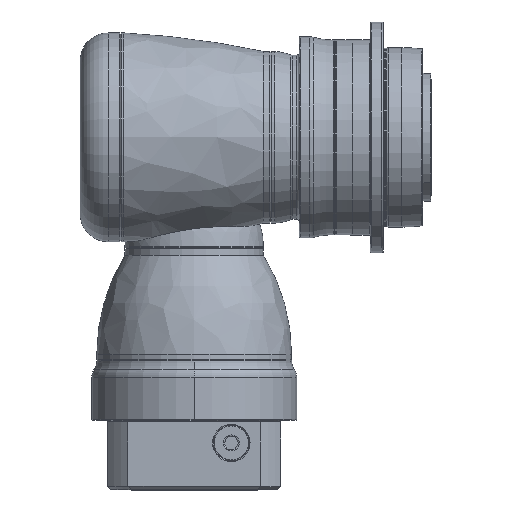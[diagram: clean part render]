
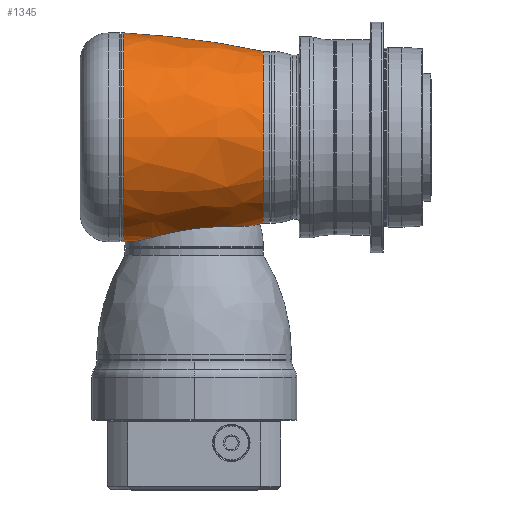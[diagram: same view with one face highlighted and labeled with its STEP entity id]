
A CAD part, top view. The second image highlights one B-rep face of the part: STEP entity #1345.
In plain terms, the highlighted free-form (B-spline) face has degree [3, 3] with [7, 4] control points.
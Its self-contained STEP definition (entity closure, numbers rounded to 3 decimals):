
#136=CARTESIAN_POINT('',(-92.521,617.494,
0.));
#137=DIRECTION('',(0.,0.,-1.));
#138=DIRECTION('',(0.209,-0.978,0.));
#139=AXIS2_PLACEMENT_3D('',#136,#137,#138);
#146=CARTESIAN_POINT('',(-92.521,-617.494,
0.));
#147=DIRECTION('',(0.,0.,1.));
#148=DIRECTION('',(0.209,0.978,0.));
#149=AXIS2_PLACEMENT_3D('',#146,#147,#148);
#151=CARTESIAN_POINT('',(-92.521,617.494,
0.));
#152=DIRECTION('',(0.,0.,-1.));
#153=DIRECTION('',(0.064,-0.998,0.));
#154=AXIS2_PLACEMENT_3D('',#151,#152,#153);
#156=CARTESIAN_POINT('',(54.,0.,0.));
#157=DIRECTION('',(1.,0.,0.));
#158=DIRECTION('',(0.,1.,0.));
#159=AXIS2_PLACEMENT_3D('',#156,#157,#158);
#161=CARTESIAN_POINT('',(-47.703,-81.07,0.));
#162=CARTESIAN_POINT('',(-46.711,-81.006,1.883));
#163=CARTESIAN_POINT('',(-44.473,-80.728,5.573));
#164=CARTESIAN_POINT('',(-40.271,-79.881,10.825));
#165=CARTESIAN_POINT('',(-35.457,-78.725,15.432));
#166=CARTESIAN_POINT('',(-30.052,-77.36,19.386));
#167=CARTESIAN_POINT('',(-24.133,-75.891,22.612));
#168=CARTESIAN_POINT('',(-17.681,-74.404,25.078));
#169=CARTESIAN_POINT('',(-10.911,-73.028,26.68));
#170=CARTESIAN_POINT('',(-3.939,-71.853,27.373));
#171=CARTESIAN_POINT('',(2.54,-70.989,27.228));
#172=CARTESIAN_POINT('',(9.265,-70.327,26.29));
#173=CARTESIAN_POINT('',(15.865,-69.908,24.519));
#174=CARTESIAN_POINT('',(22.183,-69.694,21.955));
#175=CARTESIAN_POINT('',(27.994,-69.62,18.707));
#176=CARTESIAN_POINT('',(33.264,-69.595,14.827));
#177=CARTESIAN_POINT('',(37.917,-69.53,10.394));
#178=CARTESIAN_POINT('',(41.953,-69.326,5.394));
#179=CARTESIAN_POINT('',(44.113,-69.043,1.827));
#180=CARTESIAN_POINT('',(45.059,-68.853,
0.));
#211=CARTESIAN_POINT('',(-55.,0.,0.));
#212=DIRECTION('',(1.,0.,0.));
#213=DIRECTION('',(0.,1.,0.));
#214=AXIS2_PLACEMENT_3D('',#211,#212,#213);
#989=CARTESIAN_POINT('',(54.,67.,0.));
#990=CARTESIAN_POINT('',(-55.,81.5,0.));
#991=VERTEX_POINT('',#989);
#992=VERTEX_POINT('',#990);
#993=CARTESIAN_POINT('',(54.,-67.,0.));
#994=VERTEX_POINT('',#993);
#995=CARTESIAN_POINT('',(45.059,-68.853,
0.));
#996=VERTEX_POINT('',#995);
#997=CARTESIAN_POINT('',(-47.703,-81.07,
0.));
#998=CARTESIAN_POINT('',(-55.,-81.5,0.));
#999=VERTEX_POINT('',#997);
#1000=VERTEX_POINT('',#998);
#1305=CARTESIAN_POINT('',(-57.198,81.453,
-5.125));
#1306=CARTESIAN_POINT('',(-19.046,79.53,
-5.004));
#1307=CARTESIAN_POINT('',(18.822,74.502,-4.687));
#1308=CARTESIAN_POINT('',(56.152,66.405,-4.178));
#1309=CARTESIAN_POINT('',(-57.198,84.607,45.002));
#1310=CARTESIAN_POINT('',(-19.046,82.609,43.939));
#1311=CARTESIAN_POINT('',(18.822,77.387,41.161));
#1312=CARTESIAN_POINT('',(56.152,68.976,36.687));
#1313=CARTESIAN_POINT('',(-57.198,50.225,81.615));
#1314=CARTESIAN_POINT('',(-19.046,49.039,79.687));
#1315=CARTESIAN_POINT('',(18.822,45.939,74.649));
#1316=CARTESIAN_POINT('',(56.152,40.946,66.536));
#1317=CARTESIAN_POINT('',(-57.198,0.,81.615));
#1318=CARTESIAN_POINT('',(-19.046,0.,79.687));
#1319=CARTESIAN_POINT('',(18.822,0.,74.649));
#1320=CARTESIAN_POINT('',(56.152,0.,66.536));
#1321=CARTESIAN_POINT('',(-57.198,-50.225,
81.615));
#1322=CARTESIAN_POINT('',(-19.046,-49.039,
79.687));
#1323=CARTESIAN_POINT('',(18.822,-45.939,74.649));
#1324=CARTESIAN_POINT('',(56.152,-40.946,66.536));
#1325=CARTESIAN_POINT('',(-57.198,-84.607,
45.002));
#1326=CARTESIAN_POINT('',(-19.046,-82.609,
43.939));
#1327=CARTESIAN_POINT('',(18.822,-77.387,41.161));
#1328=CARTESIAN_POINT('',(56.152,-68.976,36.687));
#1329=CARTESIAN_POINT('',(-57.198,-81.453,
-5.125));
#1330=CARTESIAN_POINT('',(-19.046,-79.53,
-5.004));
#1331=CARTESIAN_POINT('',(18.822,-74.502,
-4.687));
#1332=CARTESIAN_POINT('',(56.152,-66.405,
-4.178));
#1333=(BOUNDED_SURFACE()B_SPLINE_SURFACE(3,3,((#1305,#1306,#1307,#1308),(#1309,
#1310,#1311,#1312),(#1313,#1314,#1315,#1316),(#1317,#1318,#1319,#1320),(#1321,
#1322,#1323,#1324),(#1325,#1326,#1327,#1328),(#1329,#1330,#1331,#1332)),
.UNSPECIFIED.,.F.,.F.,.F.)B_SPLINE_SURFACE_WITH_KNOTS((4,3,4),(4,4),(0.,1.,
2.),(0.,1.),.UNSPECIFIED.)GEOMETRIC_REPRESENTATION_ITEM()RATIONAL_B_SPLINE_SURFACE(((1.189,1.187,1.187,1.189),(
0.939,0.937,0.937,0.939),(
0.939,0.937,0.937,0.939),(
1.189,1.187,1.187,1.189),(
0.939,0.937,0.937,0.939),(
0.939,0.937,0.937,0.939),(
1.189,1.187,1.187,1.189)))REPRESENTATION_ITEM('')SURFACE());
#1334=ORIENTED_EDGE('',*,*,#1287,.T.);
#1336=ORIENTED_EDGE('',*,*,#1335,.F.);
#1337=ORIENTED_EDGE('',*,*,#1295,.T.);
#1339=ORIENTED_EDGE('',*,*,#1338,.F.);
#1340=ORIENTED_EDGE('',*,*,#1291,.F.);
#1342=ORIENTED_EDGE('',*,*,#1341,.T.);
#1343=EDGE_LOOP('',(#1334,#1336,#1337,#1339,#1340,#1342));
#1344=FACE_OUTER_BOUND('',#1343,.F.);
#1345=ADVANCED_FACE('',(#1344),#1333,.T.);
#140=CIRCLE('',#139,700.);
#150=CIRCLE('',#149,700.);
#155=CIRCLE('',#154,700.);
#160=CIRCLE('',#159,67.);
#181=B_SPLINE_CURVE_WITH_KNOTS('',3,(#161,#162,#163,#164,#165,#166,#167,#168,
#169,#170,#171,#172,#173,#174,#175,#176,#177,#178,#179,#180),.UNSPECIFIED.,.F.,
.F.,(4,1,1,1,1,1,1,1,1,1,1,1,1,1,1,1,1,4),(0.,0.059,
0.118,0.176,0.235,0.294,
0.353,0.412,0.471,0.529,
0.588,0.647,0.706,0.765,
0.824,0.882,0.941,1.),.UNSPECIFIED.);
#215=CIRCLE('',#214,81.5);
#1287=EDGE_CURVE('',#994,#996,#140,.T.);
#1291=EDGE_CURVE('',#991,#992,#150,.T.);
#1295=EDGE_CURVE('',#999,#1000,#155,.T.);
#1335=EDGE_CURVE('',#999,#996,#181,.T.);
#1338=EDGE_CURVE('',#992,#1000,#215,.T.);
#1341=EDGE_CURVE('',#991,#994,#160,.T.);
